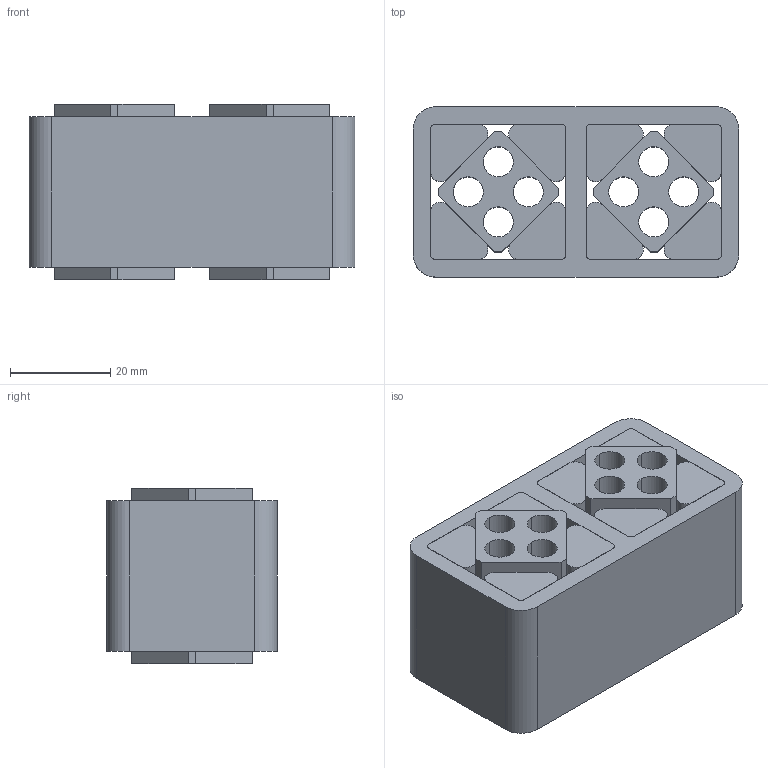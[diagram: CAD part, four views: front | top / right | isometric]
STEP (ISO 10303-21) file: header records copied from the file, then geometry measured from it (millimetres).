
FILE_DESCRIPTION((''),'2;1');
FILE_NAME('D:\ROSTA\Gummifederelemente\3D\DO-A18x60_01041004.stp','2005-02-09T10:25:23',('Administrator'),(''),'Autodesk Inventor 8','Autodesk Inventor 8','');
FILE_SCHEMA(('AUTOMOTIVE_DESIGN { 1 0 10303 214 1 1 1 1 }'));
Length unit declared in the file: millimetre
Products named in the file (4): Baugruppe6; 4.4.3759-001; 4.4.3759-002; 4.4.3759-003
Assembly tree (11 placements, depth 2):
  Baugruppe6
    4.4.3759-001
    4.4.3759-002  x2
    4.4.3759-003  x8
Bounding box: 65 x 34 x 35 mm (x, y, z)
Volume: 58723.1 mm3; surface area: 35228.3 mm2
Topology: 11 solids, 11 shells, 126 faces, 312 edges, 208 vertices
Faces by surface type: plane 74, cylinder 52
Entity records: 1819 total; most frequent: DIRECTION 318, CARTESIAN_POINT 297, ORIENTED_EDGE 276, EDGE_CURVE 138, AXIS2_PLACEMENT_3D 113, VERTEX_POINT 92, VECTOR 92, LINE 92
